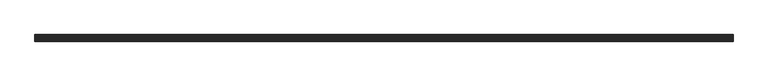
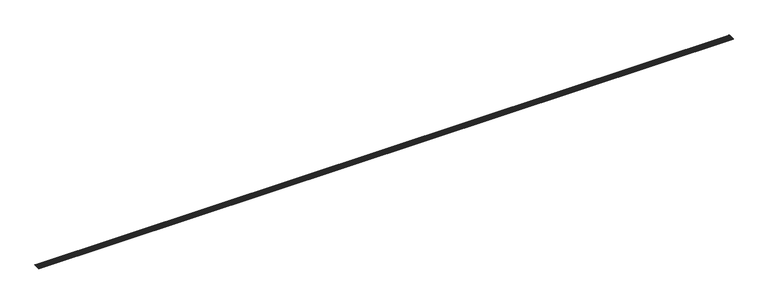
"""IFC4 building model written with IfcOpenShell, lengths in millimetres: slab geometry, ROSA GRES_003 : Pieza 003_Aqua_Marino_Anti-Slip."""

from ifc_helpers import new_model, si_unit, point, frame, frame_2d, origin, place, context, project, spatial, polyline, circle_curve, trimmed, segment, composite_curve, outline, extrude, source, transform, mapped, element, save


def slab_2f5daf9f(model_context):
    return source(origin(), model_context, "Body", "SweptSolid", [
        extrude(outline(composite_curve([segment(trimmed(circle_curve(frame_2d((-7.6419163, 1.7573601)), 7.7398374), [point((-7.6419163, 9.4971975))], [point((0.0, 2.9846331))], False, "CARTESIAN"), True, "CONTINUOUS"), segment(trimmed(circle_curve(frame_2d((-1.9104791, 2.6778148)), 1.9349594), [point((0.0, 2.9846331))], [point((-0.5422562, 1.309592))], False, "CARTESIAN"), True, "CONTINUOUS"), segment(polyline([(-0.5422562, 1.309592), (-1.8518481, 0.0), (-118.9168888, 0.0), (-118.9168888, 8.0603545)]), True, "CONTINUOUS"), segment(trimmed(circle_curve(frame_2d((-118.9168888, 13.6516438)), 5.5912893), [point((-118.9168888, 8.0603545))], [point((-114.6668888, 10.0184612))], True, "CARTESIAN"), True, "CONTINUOUS"), segment(polyline([(-114.6668888, 10.0184612), (-114.6668888, 4.0921512), (-13.1748183, 4.0921512), (-13.1748183, 9.4971975), (-7.6419163, 9.4971975)]), True, "CONTINUOUS")], self_intersect=False)), frame((0.0, 0.0, 0.0), z_axis=(1.0, 0.0, 0.0), x_axis=(0.0, 1.0, 0.0)), (0.0, 0.0, 1.0), 12598.1229221),
        extrude(outline(composite_curve([segment(polyline([(-106.1668888, 10.0184612), (-106.1668888, 4.0921512), (-114.6668888, 4.0921512), (-114.6668888, 10.0184612)]), True, "CONTINUOUS"), segment(trimmed(circle_curve(frame_2d((-110.4168888, 13.6516438)), 5.5912893), [point((-114.6668888, 10.0184612))], [point((-106.1668888, 10.0184612))], True, "CARTESIAN"), True, "CONTINUOUS")], self_intersect=False)), frame((0.0, 0.0, 0.0), z_axis=(1.0, 0.0, 0.0), x_axis=(0.0, 1.0, 0.0)), (0.0, 0.0, 1.0), 12598.1229221),
        extrude(outline(polyline([(8.5, 0.0), (8.5, -12598.1229221), (-8.5, -12598.1229221), (-8.5, 0.0), (8.5, 0.0)])), frame((12598.1229221, -80.6668888, 4.0921512), z_axis=(0.0, -7.603645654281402e-12, 1.0), x_axis=(0.0, -1.0, -7.603645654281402e-12)), (0.0, 0.0, 1.0), 2.92631),
        extrude(outline(polyline([(8.5, 0.0), (8.5, -12598.1229221), (-8.5, -12598.1229221), (-8.5, 0.0), (8.5, 0.0)])), frame((12598.1229221, -46.6668888, 4.0921512), z_axis=(0.0, -7.603614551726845e-12, 1.0), x_axis=(0.0, -1.0, -7.603614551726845e-12)), (0.0, 0.0, 1.0), 2.92631),
        extrude(outline(composite_curve([segment(polyline([(-13.1748183, 9.4971975), (-13.1748183, 4.0921512), (-21.1668888, 4.0921512), (-21.1668888, 10.0184612)]), True, "CONTINUOUS"), segment(trimmed(circle_curve(frame_2d((-16.9168888, 13.6516438)), 5.5912893), [point((-21.1668888, 10.0184612))], [point((-13.1748183, 9.4971975))], True, "CARTESIAN"), True, "CONTINUOUS")], self_intersect=False)), frame((0.0, 0.0, 0.0), z_axis=(1.0, 0.0, 0.0), x_axis=(0.0, 1.0, 0.0)), (0.0, 0.0, 1.0), 12598.1229221),
        extrude(outline(composite_curve([segment(polyline([(-21.1668888, 10.0221512), (-21.1668888, 4.0921512), (-38.1668888, 4.0921512), (-38.1668888, 7.0184612), (-55.1668888, 7.0184612), (-55.1668888, 4.0921512), (-72.1668888, 4.0921512), (-72.1668888, 7.0184612), (-89.1668888, 7.0184612), (-89.1668888, 4.0921512), (-106.1668888, 4.0921512), (-106.1668888, 10.0221512)]), True, "CONTINUOUS"), segment(trimmed(circle_curve(frame_2d((-101.9168888, 13.6553338)), 5.5912893), [point((-106.1668888, 10.0221512))], [point((-97.6668888, 10.0221512))], True, "CARTESIAN"), True, "CONTINUOUS"), segment(trimmed(circle_curve(frame_2d((-93.4168888, 13.6553338)), 5.5912893), [point((-97.6668888, 10.0221512))], [point((-89.1668888, 10.0221512))], True, "CARTESIAN"), True, "CONTINUOUS"), segment(trimmed(circle_curve(frame_2d((-84.9168888, 13.6553338)), 5.5912893), [point((-89.1668888, 10.0221512))], [point((-80.6668888, 10.0221512))], True, "CARTESIAN"), True, "CONTINUOUS"), segment(trimmed(circle_curve(frame_2d((-76.4168888, 13.6553338)), 5.5912893), [point((-80.6668888, 10.0221512))], [point((-72.1668888, 10.0221512))], True, "CARTESIAN"), True, "CONTINUOUS"), segment(trimmed(circle_curve(frame_2d((-67.9168888, 13.6553338)), 5.5912893), [point((-72.1668888, 10.0221512))], [point((-63.6668888, 10.0221512))], True, "CARTESIAN"), True, "CONTINUOUS"), segment(trimmed(circle_curve(frame_2d((-59.4168888, 13.6553338)), 5.5912893), [point((-63.6668888, 10.0221512))], [point((-55.1668888, 10.0221512))], True, "CARTESIAN"), True, "CONTINUOUS"), segment(trimmed(circle_curve(frame_2d((-50.9168888, 13.6553338)), 5.5912893), [point((-55.1668888, 10.0221512))], [point((-46.6668888, 10.0221512))], True, "CARTESIAN"), True, "CONTINUOUS"), segment(trimmed(circle_curve(frame_2d((-42.4168888, 13.6553338)), 5.5912893), [point((-46.6668888, 10.0221512))], [point((-38.1668888, 10.0221512))], True, "CARTESIAN"), True, "CONTINUOUS"), segment(trimmed(circle_curve(frame_2d((-33.9168888, 13.6553338)), 5.5912893), [point((-38.1668888, 10.0221512))], [point((-29.6668888, 10.0221512))], True, "CARTESIAN"), True, "CONTINUOUS"), segment(trimmed(circle_curve(frame_2d((-25.4168888, 13.6553338)), 5.5912893), [point((-29.6668888, 10.0221512))], [point((-21.1668888, 10.0221512))], True, "CARTESIAN"), True, "CONTINUOUS")], self_intersect=False)), frame((0.0, 0.0, 0.0), z_axis=(1.0, 0.0, 0.0), x_axis=(0.0, 1.0, 0.0)), (0.0, 0.0, 1.0), 12598.1229221),
    ])


if __name__ == "__main__":
    model = new_model("IFC4")
    model_context = context("Model", 3, world=origin())
    ifc_project = project(units=[si_unit("LENGTHUNIT", "METRE", prefix="MILLI")], contexts=[model_context])
    site = spatial("IfcSite", under=ifc_project)
    building = spatial("IfcBuilding", under=site)
    placement = place(None, origin())
    slab_shape = slab_2f5daf9f(model_context)
    element("IfcSlab", 1, ObjectType="ROSA GRES_003 : Pieza 003_Aqua_Marino_Anti-Slip", at=placement, inside=building, context=model_context, shape_type="MappedRepresentation", body=[
        mapped(slab_shape, transform((0.0, 0.0, 0.0), x_axis=(1.0, 0.0, 0.0), y_axis=(0.0, 1.0, 0.0), z_axis=(0.0, 0.0, 1.0))),
    ])
    save(model, "model.ifc")
